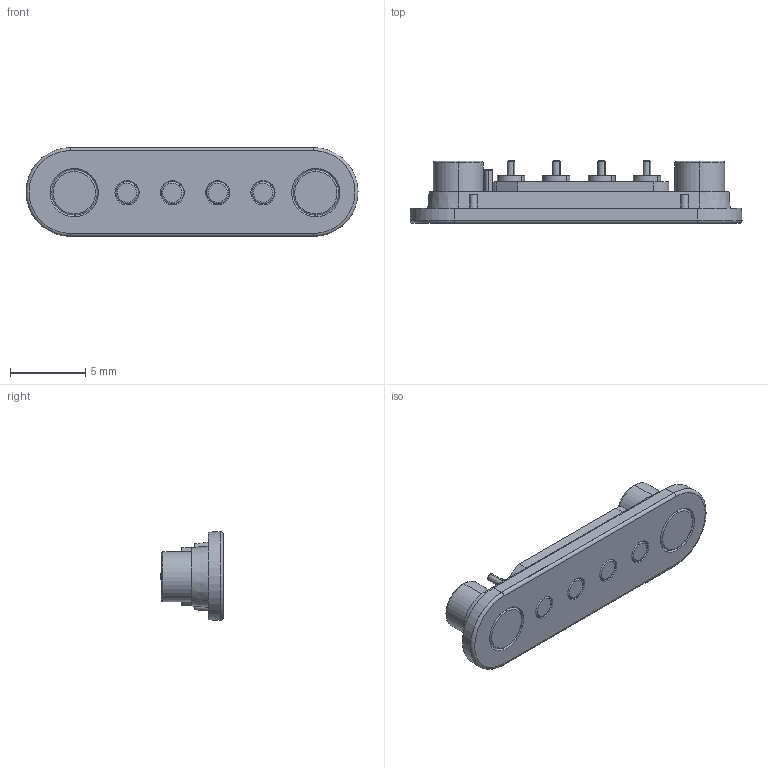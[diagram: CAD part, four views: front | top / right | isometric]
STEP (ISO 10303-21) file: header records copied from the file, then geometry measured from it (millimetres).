
FILE_DESCRIPTION((''),'2;1');
FILE_NAME('303C-C4115-30-04_C_2','2026-09-10T',('fros.liao'),(''),'CREO PARAMETRIC BY PTC INC, 2018360','CREO PARAMETRIC BY PTC INC, 2018360','');
FILE_SCHEMA(('CONFIG_CONTROL_DESIGN'));
Length unit declared in the file: millimetre
Products named in the file (1): 303C-C4115-30-04_C_2
Bounding box: 21.99 x 4.15 x 5.89 mm (x, y, z)
Volume: 271 mm3; surface area: 514.1 mm2
Topology: 1 solids, 1 shells, 136 faces, 292 edges, 180 vertices
Faces by surface type: cylinder 45, plane 40, cone 24, torus 22, bspline 4, extrusion 1
Entity records: 3910 total; most frequent: CARTESIAN_POINT 800, DIRECTION 714, ORIENTED_EDGE 584, AXIS2_PLACEMENT_3D 301, EDGE_CURVE 292, VERTEX_POINT 180, CIRCLE 170, EDGE_LOOP 158
